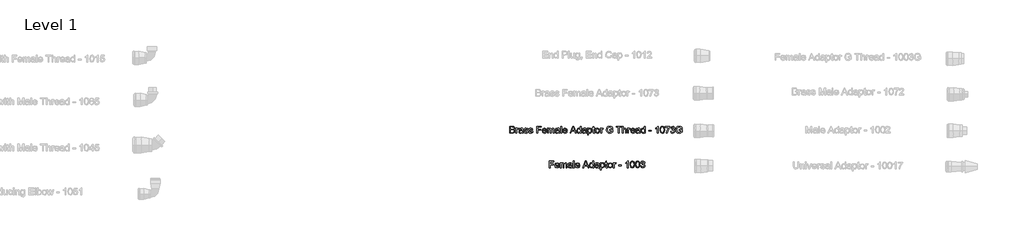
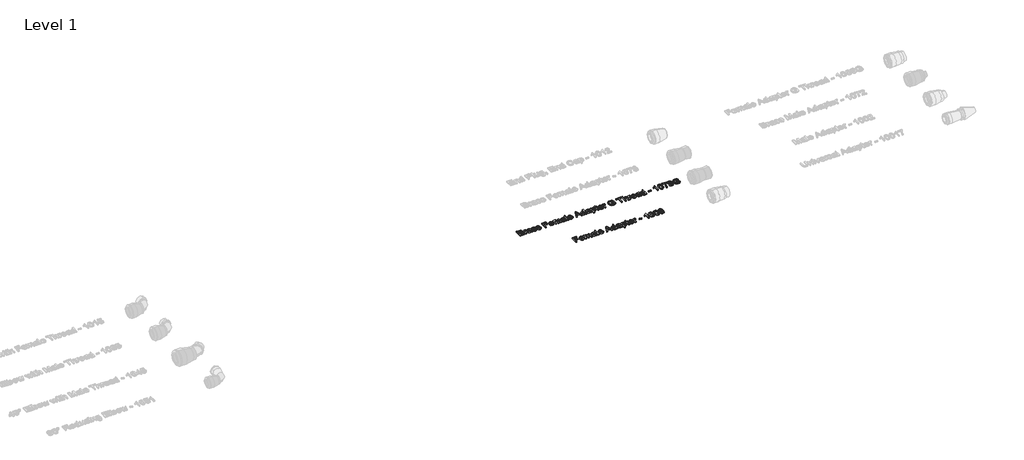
# One storey, part 9 of 13: 2 proxies.
"""IFC4 building model written with IfcOpenShell, lengths in millimetres."""

from ifc_helpers import new_model, si_unit, origin, origin_with_axes, place, context, project, spatial, polyline, outline, extrude, element, save

model = new_model("IFC4")

# Units and contexts
model_context = context("Model", 3, world=origin())
ifc_project = project(units=[si_unit("LENGTHUNIT", "METRE", prefix="MILLI")], contexts=[model_context])

# Site, building, storey
site = spatial("IfcSite", under=ifc_project)
building = spatial("IfcBuilding", under=site)
storey = spatial("IfcBuildingStorey", under=building, Name="Level 1", Elevation=0.0)

# Proxies
placement = place(None, origin())
element("IfcBuildingElementProxy", 1, Name="30 mm Arial", ObjectType="30 mm Arial", at=placement, inside=storey, context=model_context, shape_type="SweptSolid", body=[
    extrude(outline(polyline([(15493.2672516, 4599.8924653), (15493.2672516, 4629.4309268), (15504.5388863, 4629.4309268), (15510.059319, 4628.5619364), (15513.3189343, 4625.8900614), (15514.4980209, 4622.1112153), (15513.5064343, 4618.6604941), (15510.5100401, 4616.0463114), (15514.1482613, 4613.2915037), (15515.4210978, 4608.6977537), (15514.5521074, 4604.7278018), (15512.3994632, 4601.9008787), (15509.1867228, 4600.4008787), (15504.4523478, 4599.8924653), (15493.2672516, 4599.8924653)]), holes=[polyline([(15496.9595593, 4603.584773), (15504.5316747, 4603.584773), (15507.2720593, 4603.7290037), (15509.590569, 4604.5330903), (15511.1266266, 4606.1737153), (15511.7287901, 4608.661696), (15511.0220593, 4611.5318883), (15508.7323959, 4613.2446287), (15504.1710978, 4613.7386191), (15496.9595593, 4613.7386191), (15496.9595593, 4603.584773)]), polyline([(15496.9595593, 4617.4309268), (15503.7023478, 4617.4309268), (15507.6398478, 4617.7482345), (15510.0088382, 4619.114821), (15510.8057132, 4621.5198691), (15510.0629247, 4623.928523), (15507.9355209, 4625.3528018), (15503.1903286, 4625.7386191), (15496.9595593, 4625.7386191), (15496.9595593, 4617.4309268)])]), origin_with_axes(), (0.0, 0.0, 1.0), 5.0),
    extrude(outline(polyline([(15520.0364824, 4599.8924653), (15520.0364824, 4621.584773), (15523.2672516, 4621.584773), (15523.2672516, 4618.3756383), (15525.5605209, 4621.3323691), (15527.8682132, 4622.0463114), (15531.574944, 4620.9068883), (15530.3417709, 4617.5967922), (15527.745617, 4618.3540037), (15525.6578766, 4617.6256383), (15524.3273478, 4615.6064076), (15523.7287901, 4611.2939076), (15523.7287901, 4599.8924653), (15520.0364824, 4599.8924653)])), origin_with_axes(), (0.0, 0.0, 1.0), 5.0),
    extrude(outline(polyline([(15547.7287901, 4602.661696), (15544.1482613, 4600.1592922), (15540.1927324, 4599.4309268), (15534.8309536, 4601.1833306), (15532.9595593, 4605.661696), (15533.6662901, 4608.5823691), (15535.5232613, 4610.7025614), (15538.1085978, 4611.9140999), (15541.3033093, 4612.4693883), (15547.7071555, 4613.7386191), (15546.7119632, 4617.286696), (15542.6302324, 4618.3540037), (15538.8946555, 4617.6436672), (15537.1134055, 4615.1232345), (15533.4210978, 4615.584773), (15535.0184536, 4619.1905422), (15538.2347997, 4621.303523), (15543.106194, 4622.0463114), (15547.5809536, 4621.3900614), (15550.1085978, 4619.7422249), (15551.2408093, 4617.2362153), (15551.4210978, 4614.005446), (15551.4210978, 4609.411696), (15551.6085978, 4602.9970326), (15552.3441747, 4599.8924653), (15548.651867, 4599.8924653), (15547.7287901, 4602.661696)]), holes=[polyline([(15547.7179728, 4609.5234749), (15541.7720593, 4608.9140999), (15538.5953766, 4608.3155422), (15537.1566747, 4607.3419845), (15537.7516266, 4603.9237153), (15540.9787901, 4603.1232345), (15544.714367, 4604.006648), (15547.1230209, 4606.1448691), (15547.7179728, 4609.5234749)])]), origin_with_axes(), (0.0, 0.0, 1.0), 5.0),
    extrude(outline(polyline([(15555.1134055, 4606.3540037), (15558.8057132, 4606.8155422), (15560.5148478, 4604.0751576), (15564.4307132, 4603.1232345), (15568.1951363, 4603.9958306), (15569.4210978, 4606.0439076), (15568.1879247, 4607.7025614), (15564.387444, 4608.755446), (15558.8273478, 4610.5619364), (15556.4006651, 4612.6713114), (15555.574944, 4615.6496768), (15556.2384055, 4618.4008787), (15558.0485016, 4620.5030422), (15560.3958574, 4621.5955903), (15563.5725401, 4622.0463114), (15568.0653286, 4621.3215518), (15570.9210978, 4619.3600133), (15572.1903286, 4616.0463114), (15568.4980209, 4615.584773), (15567.1097997, 4617.6220326), (15563.8610016, 4618.3540037), (15560.3273478, 4617.6544845), (15559.2672516, 4616.0246768), (15561.0845593, 4614.1352537), (15564.2648478, 4613.349196), (15569.684319, 4611.6112153), (15572.2011459, 4609.6424653), (15573.1134055, 4606.4333306), (15572.042492, 4602.8996768), (15568.9523478, 4600.3359749), (15564.3802324, 4599.4309268), (15557.9403286, 4601.1761191), (15555.1134055, 4606.3540037)])), origin_with_axes(), (0.0, 0.0, 1.0), 5.0),
    extrude(outline(polyline([(15575.8826363, 4606.3540037), (15579.574944, 4606.8155422), (15581.2840786, 4604.0751576), (15585.199944, 4603.1232345), (15588.964367, 4603.9958306), (15590.1903286, 4606.0439076), (15588.9571555, 4607.7025614), (15585.1566747, 4608.755446), (15579.5965786, 4610.5619364), (15577.1698959, 4612.6713114), (15576.3441747, 4615.6496768), (15577.0076363, 4618.4008787), (15578.8177324, 4620.5030422), (15581.1650882, 4621.5955903), (15584.3417709, 4622.0463114), (15588.8345593, 4621.3215518), (15591.6903286, 4619.3600133), (15592.9595593, 4616.0463114), (15589.2672516, 4615.584773), (15587.8790305, 4617.6220326), (15584.6302324, 4618.3540037), (15581.0965786, 4617.6544845), (15580.0364824, 4616.0246768), (15581.8537901, 4614.1352537), (15585.0340786, 4613.349196), (15590.4535497, 4611.6112153), (15592.9703766, 4609.6424653), (15593.8826363, 4606.4333306), (15592.8117228, 4602.8996768), (15589.7215786, 4600.3359749), (15585.1494632, 4599.4309268), (15578.7095593, 4601.1761191), (15575.8826363, 4606.3540037)])), origin_with_axes(), (0.0, 0.0, 1.0), 5.0),
    extrude(outline(polyline([(15610.0364824, 4599.8924653), (15610.0364824, 4629.4309268), (15629.8826363, 4629.4309268), (15629.8826363, 4625.7386191), (15613.7287901, 4625.7386191), (15613.7287901, 4616.9693883), (15627.574944, 4616.9693883), (15627.574944, 4613.2770806), (15613.7287901, 4613.2770806), (15613.7287901, 4599.8924653), (15610.0364824, 4599.8924653)])), origin_with_axes(), (0.0, 0.0, 1.0), 5.0),
    extrude(outline(polyline([(15649.6855209, 4606.3540037), (15653.3057132, 4605.8924653), (15649.9198959, 4601.1256383), (15643.6134055, 4599.4309268), (15635.9475401, 4602.3552056), (15633.1134055, 4610.5583306), (15635.9763863, 4619.0318883), (15643.4042709, 4622.0463114), (15650.6194151, 4619.0390999), (15653.4210978, 4610.5799653), (15636.8057132, 4609.584773), (15638.9295113, 4604.7890999), (15643.6855209, 4603.1232345), (15647.3057132, 4603.8948691), (15649.6855209, 4606.3540037)]), holes=[polyline([(15636.8057132, 4613.2770806), (15649.7287901, 4613.2770806), (15648.2504247, 4616.6232345), (15643.3898478, 4618.3540037), (15638.8429728, 4616.9729941), (15636.8057132, 4613.2770806)])]), origin_with_axes(), (0.0, 0.0, 1.0), 5.0),
    extrude(outline(polyline([(15657.1134055, 4599.8924653), (15657.1134055, 4621.584773), (15660.8057132, 4621.584773), (15660.8057132, 4618.0150614), (15663.3441747, 4620.9393403), (15666.9571555, 4622.0463114), (15670.6566747, 4620.9177056), (15672.6903286, 4617.755446), (15679.2095593, 4622.0463114), (15684.0376843, 4620.2614556), (15685.7287901, 4614.7626576), (15685.7287901, 4599.8924653), (15682.0364824, 4599.8924653), (15682.0364824, 4613.1761191), (15681.6939343, 4616.2590518), (15680.4535497, 4617.7770806), (15678.3441747, 4618.3540037), (15674.7131651, 4616.8756383), (15673.2672516, 4612.1376576), (15673.2672516, 4599.8924653), (15669.574944, 4599.8924653), (15669.574944, 4613.5871768), (15668.7203766, 4617.1640999), (15665.918694, 4618.3540037), (15663.1855209, 4617.5607345), (15661.3682132, 4615.2386191), (15660.8057132, 4610.8323691), (15660.8057132, 4599.8924653), (15657.1134055, 4599.8924653)])), origin_with_axes(), (0.0, 0.0, 1.0), 5.0),
    extrude(outline(polyline([(15705.1134055, 4602.661696), (15701.5328766, 4600.1592922), (15697.5773478, 4599.4309268), (15692.215569, 4601.1833306), (15690.3441747, 4605.661696), (15691.0509055, 4608.5823691), (15692.9078766, 4610.7025614), (15695.4932132, 4611.9140999), (15698.6879247, 4612.4693883), (15705.0917709, 4613.7386191), (15704.0965786, 4617.286696), (15700.0148478, 4618.3540037), (15696.2792709, 4617.6436672), (15694.4980209, 4615.1232345), (15690.8057132, 4615.584773), (15692.403069, 4619.1905422), (15695.6194151, 4621.303523), (15700.4908093, 4622.0463114), (15704.965569, 4621.3900614), (15707.4932132, 4619.7422249), (15708.6254247, 4617.2362153), (15708.8057132, 4614.005446), (15708.8057132, 4609.411696), (15708.9932132, 4602.9970326), (15709.7287901, 4599.8924653), (15706.0364824, 4599.8924653), (15705.1134055, 4602.661696)]), holes=[polyline([(15705.1025882, 4609.5234749), (15699.1566747, 4608.9140999), (15695.979992, 4608.3155422), (15694.5412901, 4607.3419845), (15695.136242, 4603.9237153), (15698.3634055, 4603.1232345), (15702.0989824, 4604.006648), (15704.5076363, 4606.1448691), (15705.1025882, 4609.5234749)])]), origin_with_axes(), (0.0, 0.0, 1.0), 5.0),
    extrude(outline(polyline([(15713.8826363, 4599.8924653), (15713.8826363, 4629.4309268), (15717.574944, 4629.4309268), (15717.574944, 4599.8924653), (15713.8826363, 4599.8924653)])), origin_with_axes(), (0.0, 0.0, 1.0), 5.0),
    extrude(outline(polyline([(15738.3009055, 4606.3540037), (15741.9210978, 4605.8924653), (15738.5352805, 4601.1256383), (15732.2287901, 4599.4309268), (15724.5629247, 4602.3552056), (15721.7287901, 4610.5583306), (15724.5917709, 4619.0318883), (15732.0196555, 4622.0463114), (15739.2347997, 4619.0390999), (15742.0364824, 4610.5799653), (15725.4210978, 4609.584773), (15727.5448959, 4604.7890999), (15732.3009055, 4603.1232345), (15735.9210978, 4603.8948691), (15738.3009055, 4606.3540037)]), holes=[polyline([(15725.4210978, 4613.2770806), (15738.3441747, 4613.2770806), (15736.8658093, 4616.6232345), (15732.0052324, 4618.3540037), (15727.4583574, 4616.9729941), (15725.4210978, 4613.2770806)])]), origin_with_axes(), (0.0, 0.0, 1.0), 5.0),
    extrude(outline(polyline([(15754.2888863, 4599.8924653), (15766.0797516, 4629.4309268), (15769.2239824, 4629.4309268), (15781.0148478, 4599.8924653), (15777.1134055, 4599.8924653), (15773.731194, 4609.1232345), (15761.5653286, 4609.1232345), (15758.1903286, 4599.8924653), (15754.2888863, 4599.8924653)]), holes=[polyline([(15762.9210978, 4612.8155422), (15772.3826363, 4612.8155422), (15769.7215786, 4620.0775614), (15767.651867, 4625.7386191), (15765.8129247, 4620.7121768), (15762.9210978, 4612.8155422)])]), origin_with_axes(), (0.0, 0.0, 1.0), 5.0),
    extrude(outline(polyline([(15797.8826363, 4599.8924653), (15797.8826363, 4603.3756383), (15792.0629247, 4599.4309268), (15787.4908093, 4600.8588114), (15784.2600401, 4604.8431864), (15783.1134055, 4610.7169845), (15784.1698959, 4616.5943883), (15787.3357613, 4620.6400614), (15792.0485016, 4622.0463114), (15795.4523478, 4621.0403018), (15797.8826363, 4618.4261191), (15797.8826363, 4629.4309268), (15801.574944, 4629.4309268), (15801.574944, 4599.8924653), (15797.8826363, 4599.8924653)]), holes=[polyline([(15786.8057132, 4610.7314076), (15788.4715786, 4605.0162633), (15792.401867, 4603.1232345), (15796.2852805, 4604.9297249), (15797.8826363, 4610.4501576), (15796.2564343, 4616.442946), (15792.2504247, 4618.3540037), (15788.3634055, 4616.5186672), (15786.8057132, 4610.7314076)])]), origin_with_axes(), (0.0, 0.0, 1.0), 5.0),
    extrude(outline(polyline([(15820.9595593, 4602.661696), (15817.3790305, 4600.1592922), (15813.4235016, 4599.4309268), (15808.0617228, 4601.1833306), (15806.1903286, 4605.661696), (15806.8970593, 4608.5823691), (15808.7540305, 4610.7025614), (15811.339367, 4611.9140999), (15814.5340786, 4612.4693883), (15820.9379247, 4613.7386191), (15819.9427324, 4617.286696), (15815.8610016, 4618.3540037), (15812.1254247, 4617.6436672), (15810.3441747, 4615.1232345), (15806.651867, 4615.584773), (15808.2492228, 4619.1905422), (15811.465569, 4621.303523), (15816.3369632, 4622.0463114), (15820.8117228, 4621.3900614), (15823.339367, 4619.7422249), (15824.4715786, 4617.2362153), (15824.651867, 4614.005446), (15824.651867, 4609.411696), (15824.839367, 4602.9970326), (15825.574944, 4599.8924653), (15821.8826363, 4599.8924653), (15820.9595593, 4602.661696)]), holes=[polyline([(15820.948742, 4609.5234749), (15815.0028286, 4608.9140999), (15811.8261459, 4608.3155422), (15810.387444, 4607.3419845), (15810.9823959, 4603.9237153), (15814.2095593, 4603.1232345), (15817.9451363, 4604.006648), (15820.3537901, 4606.1448691), (15820.948742, 4609.5234749)])]), origin_with_axes(), (0.0, 0.0, 1.0), 5.0),
    extrude(outline(polyline([(15829.7287901, 4591.584773), (15829.7287901, 4621.584773), (15833.4210978, 4621.584773), (15833.4210978, 4617.9645806), (15835.9739824, 4621.0258787), (15839.4210978, 4622.0463114), (15844.1013863, 4620.6184268), (15847.1590786, 4616.5943883), (15848.1903286, 4610.9044845), (15847.0256651, 4604.9225133), (15843.6434536, 4600.8479941), (15838.9739824, 4599.4309268), (15835.761242, 4600.3792441), (15833.4210978, 4602.7770806), (15833.4210978, 4591.584773), (15829.7287901, 4591.584773)]), holes=[polyline([(15833.4210978, 4610.5655422), (15835.0184536, 4604.9405422), (15838.8946555, 4603.1232345), (15842.8501843, 4605.005446), (15844.4980209, 4610.8395806), (15842.8898478, 4616.4790037), (15839.0460978, 4618.3540037), (15835.1266266, 4616.3600133), (15833.4210978, 4610.5655422)])]), origin_with_axes(), (0.0, 0.0, 1.0), 5.0),
    extrude(outline(polyline([(15860.1903286, 4602.9717922), (15860.651867, 4599.7842922), (15857.8898478, 4599.4309268), (15854.7960978, 4600.0439076), (15853.2528286, 4601.6520806), (15852.8057132, 4605.8419845), (15852.8057132, 4617.8924653), (15850.0364824, 4617.8924653), (15850.0364824, 4621.584773), (15852.8057132, 4621.584773), (15852.8057132, 4626.8564076), (15856.4980209, 4629.0270806), (15856.4980209, 4621.584773), (15860.1903286, 4621.584773), (15860.1903286, 4617.8924653), (15856.4980209, 4617.8924653), (15856.4980209, 4605.9501576), (15856.6927324, 4604.0463114), (15860.1903286, 4602.9717922)])), origin_with_axes(), (0.0, 0.0, 1.0), 5.0),
    extrude(outline(polyline([(15862.9595593, 4610.7386191), (15866.1542709, 4619.6448691), (15872.6590786, 4622.0463114), (15879.636242, 4619.1220326), (15882.3441747, 4611.0415037), (15881.1470593, 4604.4717922), (15877.6602805, 4600.7542441), (15872.6590786, 4599.4309268), (15865.6386459, 4602.3443883), (15862.9595593, 4610.7386191)]), holes=[polyline([(15866.651867, 4610.7458306), (15868.3610016, 4605.0234749), (15872.6590786, 4603.1232345), (15876.9427324, 4605.0342922), (15878.651867, 4610.8612153), (15876.9319151, 4616.4537633), (15872.6590786, 4618.3540037), (15868.3610016, 4616.4609749), (15866.651867, 4610.7458306)])]), origin_with_axes(), (0.0, 0.0, 1.0), 5.0),
    extrude(outline(polyline([(15886.4980209, 4599.8924653), (15886.4980209, 4621.584773), (15889.7287901, 4621.584773), (15889.7287901, 4618.3756383), (15892.0220593, 4621.3323691), (15894.3297516, 4622.0463114), (15898.0364824, 4620.9068883), (15896.8033093, 4617.5967922), (15894.2071555, 4618.3540037), (15892.1194151, 4617.6256383), (15890.7888863, 4615.6064076), (15890.1903286, 4611.2939076), (15890.1903286, 4599.8924653), (15886.4980209, 4599.8924653)])), origin_with_axes(), (0.0, 0.0, 1.0), 5.0),
    extrude(outline(polyline([(15926.1903286, 4611.4309268), (15926.1903286, 4615.1232345), (15938.1903286, 4615.1232345), (15938.1903286, 4604.0823691), (15932.2660497, 4600.599196), (15926.0028286, 4599.4309268), (15918.1170113, 4601.287898), (15912.7660497, 4606.6640999), (15910.9595593, 4614.5174653), (15912.7588382, 4622.5475133), (15917.933117, 4628.0823691), (15925.7071555, 4629.8924653), (15931.4835978, 4628.8431864), (15935.5328766, 4625.9225133), (15937.7648478, 4621.036696), (15934.3610016, 4620.0775614), (15932.6771074, 4623.4922249), (15929.7997036, 4625.4609749), (15925.6494632, 4626.2001576), (15920.9222997, 4625.4032826), (15917.7059536, 4623.3119364), (15915.8057132, 4620.4669845), (15914.651867, 4614.6689076), (15916.0400882, 4608.2326095), (15920.0785497, 4604.381648), (15925.7071555, 4603.1232345), (15930.7588382, 4604.0715518), (15934.4980209, 4606.0943883), (15934.4980209, 4611.4309268), (15926.1903286, 4611.4309268)])), origin_with_axes(), (0.0, 0.0, 1.0), 5.0),
    extrude(outline(polyline([(15963.1134055, 4599.8924653), (15963.1134055, 4625.7386191), (15953.4210978, 4625.7386191), (15953.4210978, 4629.4309268), (15976.4980209, 4629.4309268), (15976.4980209, 4625.7386191), (15966.8057132, 4625.7386191), (15966.8057132, 4599.8924653), (15963.1134055, 4599.8924653)])), origin_with_axes(), (0.0, 0.0, 1.0), 5.0),
    extrude(outline(polyline([(15980.1903286, 4599.8924653), (15980.1903286, 4629.4309268), (15983.8826363, 4629.4309268), (15983.8826363, 4618.5703499), (15990.308117, 4622.0463114), (15994.4547516, 4621.0979941), (15996.9715786, 4618.4765999), (15997.7287901, 4613.6232345), (15997.7287901, 4599.8924653), (15994.0364824, 4599.8924653), (15994.0364824, 4613.241023), (15992.8610016, 4617.1352537), (15989.5292709, 4618.3540037), (15986.5040305, 4617.5318883), (15984.4847997, 4615.303523), (15983.8826363, 4611.4165037), (15983.8826363, 4599.8924653), (15980.1903286, 4599.8924653)])), origin_with_axes(), (0.0, 0.0, 1.0), 5.0),
    extrude(outline(polyline([(16002.8057132, 4599.8924653), (16002.8057132, 4621.584773), (16006.0364824, 4621.584773), (16006.0364824, 4618.3756383), (16008.3297516, 4621.3323691), (16010.637444, 4622.0463114), (16014.3441747, 4620.9068883), (16013.1110016, 4617.5967922), (16010.5148478, 4618.3540037), (16008.4271074, 4617.6256383), (16007.0965786, 4615.6064076), (16006.4980209, 4611.2939076), (16006.4980209, 4599.8924653), (16002.8057132, 4599.8924653)])), origin_with_axes(), (0.0, 0.0, 1.0), 5.0),
    extrude(outline(polyline([(16031.839367, 4606.3540037), (16035.4595593, 4605.8924653), (16032.073742, 4601.1256383), (16025.7672516, 4599.4309268), (16018.1013863, 4602.3552056), (16015.2672516, 4610.5583306), (16018.1302324, 4619.0318883), (16025.558117, 4622.0463114), (16032.7732613, 4619.0390999), (16035.574944, 4610.5799653), (16018.9595593, 4609.584773), (16021.0833574, 4604.7890999), (16025.839367, 4603.1232345), (16029.4595593, 4603.8948691), (16031.839367, 4606.3540037)]), holes=[polyline([(16018.9595593, 4613.2770806), (16031.8826363, 4613.2770806), (16030.4042709, 4616.6232345), (16025.543694, 4618.3540037), (16020.996819, 4616.9729941), (16018.9595593, 4613.2770806)])]), origin_with_axes(), (0.0, 0.0, 1.0), 5.0),
    extrude(outline(polyline([(16053.1134055, 4602.661696), (16049.5328766, 4600.1592922), (16045.5773478, 4599.4309268), (16040.215569, 4601.1833306), (16038.3441747, 4605.661696), (16039.0509055, 4608.5823691), (16040.9078766, 4610.7025614), (16043.4932132, 4611.9140999), (16046.6879247, 4612.4693883), (16053.0917709, 4613.7386191), (16052.0965786, 4617.286696), (16048.0148478, 4618.3540037), (16044.2792709, 4617.6436672), (16042.4980209, 4615.1232345), (16038.8057132, 4615.584773), (16040.403069, 4619.1905422), (16043.6194151, 4621.303523), (16048.4908093, 4622.0463114), (16052.965569, 4621.3900614), (16055.4932132, 4619.7422249), (16056.6254247, 4617.2362153), (16056.8057132, 4614.005446), (16056.8057132, 4609.411696), (16056.9932132, 4602.9970326), (16057.7287901, 4599.8924653), (16054.0364824, 4599.8924653), (16053.1134055, 4602.661696)]), holes=[polyline([(16053.1025882, 4609.5234749), (16047.1566747, 4608.9140999), (16043.979992, 4608.3155422), (16042.5412901, 4607.3419845), (16043.136242, 4603.9237153), (16046.3634055, 4603.1232345), (16050.0989824, 4604.006648), (16052.5076363, 4606.1448691), (16053.1025882, 4609.5234749)])]), origin_with_axes(), (0.0, 0.0, 1.0), 5.0),
    extrude(outline(polyline([(16075.2672516, 4599.8924653), (16075.2672516, 4603.3756383), (16069.4475401, 4599.4309268), (16064.8754247, 4600.8588114), (16061.6446555, 4604.8431864), (16060.4980209, 4610.7169845), (16061.5545113, 4616.5943883), (16064.7203766, 4620.6400614), (16069.433117, 4622.0463114), (16072.8369632, 4621.0403018), (16075.2672516, 4618.4261191), (16075.2672516, 4629.4309268), (16078.9595593, 4629.4309268), (16078.9595593, 4599.8924653), (16075.2672516, 4599.8924653)]), holes=[polyline([(16064.1903286, 4610.7314076), (16065.856194, 4605.0162633), (16069.7864824, 4603.1232345), (16073.6698959, 4604.9297249), (16075.2672516, 4610.4501576), (16073.6410497, 4616.442946), (16069.6350401, 4618.3540037), (16065.7480209, 4616.5186672), (16064.1903286, 4610.7314076)])]), origin_with_axes(), (0.0, 0.0, 1.0), 5.0),
    extrude(outline(polyline([(16094.1903286, 4608.661696), (16094.1903286, 4612.3540037), (16105.7287901, 4612.3540037), (16105.7287901, 4608.661696), (16094.1903286, 4608.661696)])), origin_with_axes(), (0.0, 0.0, 1.0), 5.0),
    extrude(outline(polyline([(16134.3441747, 4599.8924653), (16130.651867, 4599.8924653), (16130.651867, 4622.911696), (16127.1542709, 4620.4201095), (16123.2672516, 4618.5559268), (16123.2672516, 4622.0463114), (16128.6795113, 4625.5006383), (16131.964367, 4629.4309268), (16134.3441747, 4629.4309268), (16134.3441747, 4599.8924653)])), origin_with_axes(), (0.0, 0.0, 1.0), 5.0),
    extrude(outline(polyline([(16143.1134055, 4614.4237153), (16144.198742, 4622.9225133), (16147.4222997, 4627.8227537), (16152.8057132, 4629.4309268), (16157.1182132, 4628.4790037), (16160.0965786, 4625.7350133), (16161.8273478, 4621.364821), (16162.4980209, 4614.4237153), (16161.4235016, 4605.9609749), (16158.2107613, 4601.0499172), (16152.8057132, 4599.4309268), (16146.0557132, 4602.2434268), (16143.1134055, 4614.4237153)]), holes=[polyline([(16146.8057132, 4614.4309268), (16148.5364824, 4605.2614556), (16152.8057132, 4603.1232345), (16157.074944, 4605.2686672), (16158.8057132, 4614.4309268), (16157.1326363, 4623.4958306), (16152.762444, 4625.7386191), (16148.5941747, 4623.7626576), (16146.8057132, 4614.4309268)])]), origin_with_axes(), (0.0, 0.0, 1.0), 5.0),
    extrude(outline(polyline([(16165.7287901, 4625.2770806), (16165.7287901, 4628.9693883), (16185.1134055, 4628.9693883), (16185.1134055, 4625.9838114), (16179.6146074, 4618.0403018), (16175.4066747, 4607.9189076), (16174.0364824, 4599.8924653), (16170.3441747, 4599.8924653), (16171.8117228, 4608.2217922), (16175.839367, 4617.6364556), (16181.4210978, 4625.2770806), (16165.7287901, 4625.2770806)])), origin_with_axes(), (0.0, 0.0, 1.0), 5.0),
    extrude(outline(polyline([(16188.3441747, 4607.7386191), (16192.0364824, 4608.2001576), (16194.073742, 4604.3131383), (16197.8850401, 4603.1232345), (16202.370617, 4604.7602537), (16204.0364824, 4608.8131383), (16202.3850401, 4612.631648), (16198.1879247, 4614.1424653), (16195.5989824, 4613.7386191), (16196.0100401, 4617.4309268), (16200.7912901, 4618.4477537), (16202.651867, 4621.7073691), (16201.3033093, 4624.5955903), (16197.8273478, 4625.7386191), (16194.308117, 4624.584773), (16192.4980209, 4621.1232345), (16188.8057132, 4621.584773), (16191.8273478, 4627.3756383), (16197.6975401, 4629.4309268), (16202.1506651, 4628.4177056), (16205.2660497, 4625.6484749), (16206.3441747, 4621.9237153), (16205.3201363, 4618.5198691), (16202.2912901, 4616.0751576), (16206.3153286, 4613.5511191), (16207.7287901, 4608.7482345), (16204.901867, 4602.1424653), (16197.7552324, 4599.4309268), (16191.2792709, 4601.7458306), (16188.3441747, 4607.7386191)])), origin_with_axes(), (0.0, 0.0, 1.0), 5.0),
    extrude(outline(polyline([(16226.1903286, 4611.4309268), (16226.1903286, 4615.1232345), (16238.1903286, 4615.1232345), (16238.1903286, 4604.0823691), (16232.2660497, 4600.599196), (16226.0028286, 4599.4309268), (16218.1170113, 4601.287898), (16212.7660497, 4606.6640999), (16210.9595593, 4614.5174653), (16212.7588382, 4622.5475133), (16217.933117, 4628.0823691), (16225.7071555, 4629.8924653), (16231.4835978, 4628.8431864), (16235.5328766, 4625.9225133), (16237.7648478, 4621.036696), (16234.3610016, 4620.0775614), (16232.6771074, 4623.4922249), (16229.7997036, 4625.4609749), (16225.6494632, 4626.2001576), (16220.9222997, 4625.4032826), (16217.7059536, 4623.3119364), (16215.8057132, 4620.4669845), (16214.651867, 4614.6689076), (16216.0400882, 4608.2326095), (16220.0785497, 4604.381648), (16225.7071555, 4603.1232345), (16230.7588382, 4604.0715518), (16234.4980209, 4606.0943883), (16234.4980209, 4611.4309268), (16226.1903286, 4611.4309268)])), origin_with_axes(), (0.0, 0.0, 1.0), 5.0),
])
element("IfcBuildingElementProxy", 2, Name="30 mm Arial", ObjectType="30 mm Arial", at=placement, inside=storey, context=model_context, shape_type="SweptSolid", body=[
    extrude(outline(polyline([(15664.651867, 4449.8924653), (15664.651867, 4479.4309268), (15684.4980209, 4479.4309268), (15684.4980209, 4475.7386191), (15668.3441747, 4475.7386191), (15668.3441747, 4466.9693883), (15682.1903286, 4466.9693883), (15682.1903286, 4463.2770806), (15668.3441747, 4463.2770806), (15668.3441747, 4449.8924653), (15664.651867, 4449.8924653)])), origin_with_axes(), (0.0, 0.0, 1.0), 5.0),
    extrude(outline(polyline([(15704.3009055, 4456.3540037), (15707.9210978, 4455.8924653), (15704.5352805, 4451.1256383), (15698.2287901, 4449.4309268), (15690.5629247, 4452.3552056), (15687.7287901, 4460.5583306), (15690.5917709, 4469.0318883), (15698.0196555, 4472.0463114), (15705.2347997, 4469.0390999), (15708.0364824, 4460.5799653), (15691.4210978, 4459.584773), (15693.5448959, 4454.7890999), (15698.3009055, 4453.1232345), (15701.9210978, 4453.8948691), (15704.3009055, 4456.3540037)]), holes=[polyline([(15691.4210978, 4463.2770806), (15704.3441747, 4463.2770806), (15702.8658093, 4466.6232345), (15698.0052324, 4468.3540037), (15693.4583574, 4466.9729941), (15691.4210978, 4463.2770806)])]), origin_with_axes(), (0.0, 0.0, 1.0), 5.0),
    extrude(outline(polyline([(15711.7287901, 4449.8924653), (15711.7287901, 4471.584773), (15715.4210978, 4471.584773), (15715.4210978, 4468.0150614), (15717.9595593, 4470.9393403), (15721.5725401, 4472.0463114), (15725.2720593, 4470.9177056), (15727.3057132, 4467.755446), (15733.824944, 4472.0463114), (15738.653069, 4470.2614556), (15740.3441747, 4464.7626576), (15740.3441747, 4449.8924653), (15736.651867, 4449.8924653), (15736.651867, 4463.1761191), (15736.309319, 4466.2590518), (15735.0689343, 4467.7770806), (15732.9595593, 4468.3540037), (15729.3285497, 4466.8756383), (15727.8826363, 4462.1376576), (15727.8826363, 4449.8924653), (15724.1903286, 4449.8924653), (15724.1903286, 4463.5871768), (15723.3357613, 4467.1640999), (15720.5340786, 4468.3540037), (15717.8009055, 4467.5607345), (15715.9835978, 4465.2386191), (15715.4210978, 4460.8323691), (15715.4210978, 4449.8924653), (15711.7287901, 4449.8924653)])), origin_with_axes(), (0.0, 0.0, 1.0), 5.0),
    extrude(outline(polyline([(15759.7287901, 4452.661696), (15756.1482613, 4450.1592922), (15752.1927324, 4449.4309268), (15746.8309536, 4451.1833306), (15744.9595593, 4455.661696), (15745.6662901, 4458.5823691), (15747.5232613, 4460.7025614), (15750.1085978, 4461.9140999), (15753.3033093, 4462.4693883), (15759.7071555, 4463.7386191), (15758.7119632, 4467.286696), (15754.6302324, 4468.3540037), (15750.8946555, 4467.6436672), (15749.1134055, 4465.1232345), (15745.4210978, 4465.584773), (15747.0184536, 4469.1905422), (15750.2347997, 4471.303523), (15755.106194, 4472.0463114), (15759.5809536, 4471.3900614), (15762.1085978, 4469.7422249), (15763.2408093, 4467.2362153), (15763.4210978, 4464.005446), (15763.4210978, 4459.411696), (15763.6085978, 4452.9970326), (15764.3441747, 4449.8924653), (15760.651867, 4449.8924653), (15759.7287901, 4452.661696)]), holes=[polyline([(15759.7179728, 4459.5234749), (15753.7720593, 4458.9140999), (15750.5953766, 4458.3155422), (15749.1566747, 4457.3419845), (15749.7516266, 4453.9237153), (15752.9787901, 4453.1232345), (15756.714367, 4454.006648), (15759.1230209, 4456.1448691), (15759.7179728, 4459.5234749)])]), origin_with_axes(), (0.0, 0.0, 1.0), 5.0),
    extrude(outline(polyline([(15768.4980209, 4449.8924653), (15768.4980209, 4479.4309268), (15772.1903286, 4479.4309268), (15772.1903286, 4449.8924653), (15768.4980209, 4449.8924653)])), origin_with_axes(), (0.0, 0.0, 1.0), 5.0),
    extrude(outline(polyline([(15792.9162901, 4456.3540037), (15796.5364824, 4455.8924653), (15793.1506651, 4451.1256383), (15786.8441747, 4449.4309268), (15779.1783093, 4452.3552056), (15776.3441747, 4460.5583306), (15779.2071555, 4469.0318883), (15786.6350401, 4472.0463114), (15793.8501843, 4469.0390999), (15796.651867, 4460.5799653), (15780.0364824, 4459.584773), (15782.1602805, 4454.7890999), (15786.9162901, 4453.1232345), (15790.5364824, 4453.8948691), (15792.9162901, 4456.3540037)]), holes=[polyline([(15780.0364824, 4463.2770806), (15792.9595593, 4463.2770806), (15791.481194, 4466.6232345), (15786.620617, 4468.3540037), (15782.073742, 4466.9729941), (15780.0364824, 4463.2770806)])]), origin_with_axes(), (0.0, 0.0, 1.0), 5.0),
    extrude(outline(polyline([(15808.9042709, 4449.8924653), (15820.6951363, 4479.4309268), (15823.839367, 4479.4309268), (15835.6302324, 4449.8924653), (15831.7287901, 4449.8924653), (15828.3465786, 4459.1232345), (15816.1807132, 4459.1232345), (15812.8057132, 4449.8924653), (15808.9042709, 4449.8924653)]), holes=[polyline([(15817.5364824, 4462.8155422), (15826.9980209, 4462.8155422), (15824.3369632, 4470.0775614), (15822.2672516, 4475.7386191), (15820.4283093, 4470.7121768), (15817.5364824, 4462.8155422)])]), origin_with_axes(), (0.0, 0.0, 1.0), 5.0),
    extrude(outline(polyline([(15852.4980209, 4449.8924653), (15852.4980209, 4453.3756383), (15846.6783093, 4449.4309268), (15842.106194, 4450.8588114), (15838.8754247, 4454.8431864), (15837.7287901, 4460.7169845), (15838.7852805, 4466.5943883), (15841.9511459, 4470.6400614), (15846.6638863, 4472.0463114), (15850.0677324, 4471.0403018), (15852.4980209, 4468.4261191), (15852.4980209, 4479.4309268), (15856.1903286, 4479.4309268), (15856.1903286, 4449.8924653), (15852.4980209, 4449.8924653)]), holes=[polyline([(15841.4210978, 4460.7314076), (15843.0869632, 4455.0162633), (15847.0172516, 4453.1232345), (15850.9006651, 4454.9297249), (15852.4980209, 4460.4501576), (15850.871819, 4466.442946), (15846.8658093, 4468.3540037), (15842.9787901, 4466.5186672), (15841.4210978, 4460.7314076)])]), origin_with_axes(), (0.0, 0.0, 1.0), 5.0),
    extrude(outline(polyline([(15875.574944, 4452.661696), (15871.9944151, 4450.1592922), (15868.0388863, 4449.4309268), (15862.6771074, 4451.1833306), (15860.8057132, 4455.661696), (15861.512444, 4458.5823691), (15863.3694151, 4460.7025614), (15865.9547516, 4461.9140999), (15869.1494632, 4462.4693883), (15875.5533093, 4463.7386191), (15874.558117, 4467.286696), (15870.4763863, 4468.3540037), (15866.7408093, 4467.6436672), (15864.9595593, 4465.1232345), (15861.2672516, 4465.584773), (15862.8646074, 4469.1905422), (15866.0809536, 4471.303523), (15870.9523478, 4472.0463114), (15875.4271074, 4471.3900614), (15877.9547516, 4469.7422249), (15879.0869632, 4467.2362153), (15879.2672516, 4464.005446), (15879.2672516, 4459.411696), (15879.4547516, 4452.9970326), (15880.1903286, 4449.8924653), (15876.4980209, 4449.8924653), (15875.574944, 4452.661696)]), holes=[polyline([(15875.5641266, 4459.5234749), (15869.6182132, 4458.9140999), (15866.4415305, 4458.3155422), (15865.0028286, 4457.3419845), (15865.5977805, 4453.9237153), (15868.824944, 4453.1232345), (15872.5605209, 4454.006648), (15874.9691747, 4456.1448691), (15875.5641266, 4459.5234749)])]), origin_with_axes(), (0.0, 0.0, 1.0), 5.0),
    extrude(outline(polyline([(15884.3441747, 4441.584773), (15884.3441747, 4471.584773), (15888.0364824, 4471.584773), (15888.0364824, 4467.9645806), (15890.589367, 4471.0258787), (15894.0364824, 4472.0463114), (15898.7167709, 4470.6184268), (15901.7744632, 4466.5943883), (15902.8057132, 4460.9044845), (15901.6410497, 4454.9225133), (15898.2588382, 4450.8479941), (15893.589367, 4449.4309268), (15890.3766266, 4450.3792441), (15888.0364824, 4452.7770806), (15888.0364824, 4441.584773), (15884.3441747, 4441.584773)]), holes=[polyline([(15888.0364824, 4460.5655422), (15889.6338382, 4454.9405422), (15893.5100401, 4453.1232345), (15897.465569, 4455.005446), (15899.1134055, 4460.8395806), (15897.5052324, 4466.4790037), (15893.6614824, 4468.3540037), (15889.7420113, 4466.3600133), (15888.0364824, 4460.5655422)])]), origin_with_axes(), (0.0, 0.0, 1.0), 5.0),
    extrude(outline(polyline([(15914.8057132, 4452.9717922), (15915.2672516, 4449.7842922), (15912.5052324, 4449.4309268), (15909.4114824, 4450.0439076), (15907.8682132, 4451.6520806), (15907.4210978, 4455.8419845), (15907.4210978, 4467.8924653), (15904.651867, 4467.8924653), (15904.651867, 4471.584773), (15907.4210978, 4471.584773), (15907.4210978, 4476.8564076), (15911.1134055, 4479.0270806), (15911.1134055, 4471.584773), (15914.8057132, 4471.584773), (15914.8057132, 4467.8924653), (15911.1134055, 4467.8924653), (15911.1134055, 4455.9501576), (15911.308117, 4454.0463114), (15914.8057132, 4452.9717922)])), origin_with_axes(), (0.0, 0.0, 1.0), 5.0),
    extrude(outline(polyline([(15917.574944, 4460.7386191), (15920.7696555, 4469.6448691), (15927.2744632, 4472.0463114), (15934.2516266, 4469.1220326), (15936.9595593, 4461.0415037), (15935.762444, 4454.4717922), (15932.2756651, 4450.7542441), (15927.2744632, 4449.4309268), (15920.2540305, 4452.3443883), (15917.574944, 4460.7386191)]), holes=[polyline([(15921.2672516, 4460.7458306), (15922.9763863, 4455.0234749), (15927.2744632, 4453.1232345), (15931.558117, 4455.0342922), (15933.2672516, 4460.8612153), (15931.5472997, 4466.4537633), (15927.2744632, 4468.3540037), (15922.9763863, 4466.4609749), (15921.2672516, 4460.7458306)])]), origin_with_axes(), (0.0, 0.0, 1.0), 5.0),
    extrude(outline(polyline([(15941.1134055, 4449.8924653), (15941.1134055, 4471.584773), (15944.3441747, 4471.584773), (15944.3441747, 4468.3756383), (15946.637444, 4471.3323691), (15948.9451363, 4472.0463114), (15952.651867, 4470.9068883), (15951.418694, 4467.5967922), (15948.8225401, 4468.3540037), (15946.7347997, 4467.6256383), (15945.4042709, 4465.6064076), (15944.8057132, 4461.2939076), (15944.8057132, 4449.8924653), (15941.1134055, 4449.8924653)])), origin_with_axes(), (0.0, 0.0, 1.0), 5.0),
    extrude(outline(polyline([(15964.651867, 4458.661696), (15964.651867, 4462.3540037), (15976.1903286, 4462.3540037), (15976.1903286, 4458.661696), (15964.651867, 4458.661696)])), origin_with_axes(), (0.0, 0.0, 1.0), 5.0),
    extrude(outline(polyline([(16004.8057132, 4449.8924653), (16001.1134055, 4449.8924653), (16001.1134055, 4472.911696), (15997.6158093, 4470.4201095), (15993.7287901, 4468.5559268), (15993.7287901, 4472.0463114), (15999.1410497, 4475.5006383), (16002.4259055, 4479.4309268), (16004.8057132, 4479.4309268), (16004.8057132, 4449.8924653)])), origin_with_axes(), (0.0, 0.0, 1.0), 5.0),
    extrude(outline(polyline([(16013.574944, 4464.4237153), (16014.6602805, 4472.9225133), (16017.8838382, 4477.8227537), (16023.2672516, 4479.4309268), (16027.5797516, 4478.4790037), (16030.558117, 4475.7350133), (16032.2888863, 4471.364821), (16032.9595593, 4464.4237153), (16031.8850401, 4455.9609749), (16028.6722997, 4451.0499172), (16023.2672516, 4449.4309268), (16016.5172516, 4452.2434268), (16013.574944, 4464.4237153)]), holes=[polyline([(16017.2672516, 4464.4309268), (16018.9980209, 4455.2614556), (16023.2672516, 4453.1232345), (16027.5364824, 4455.2686672), (16029.2672516, 4464.4309268), (16027.5941747, 4473.4958306), (16023.2239824, 4475.7386191), (16019.0557132, 4473.7626576), (16017.2672516, 4464.4309268)])]), origin_with_axes(), (0.0, 0.0, 1.0), 5.0),
    extrude(outline(polyline([(16036.1903286, 4464.4237153), (16037.2756651, 4472.9225133), (16040.4992228, 4477.8227537), (16045.8826363, 4479.4309268), (16050.1951363, 4478.4790037), (16053.1735016, 4475.7350133), (16054.9042709, 4471.364821), (16055.574944, 4464.4237153), (16054.5004247, 4455.9609749), (16051.2876843, 4451.0499172), (16045.8826363, 4449.4309268), (16039.1326363, 4452.2434268), (16036.1903286, 4464.4237153)]), holes=[polyline([(16039.8826363, 4464.4309268), (16041.6134055, 4455.2614556), (16045.8826363, 4453.1232345), (16050.151867, 4455.2686672), (16051.8826363, 4464.4309268), (16050.2095593, 4473.4958306), (16045.839367, 4475.7386191), (16041.6710978, 4473.7626576), (16039.8826363, 4464.4309268)])]), origin_with_axes(), (0.0, 0.0, 1.0), 5.0),
    extrude(outline(polyline([(16058.8057132, 4457.7386191), (16062.4980209, 4458.2001576), (16064.5352805, 4454.3131383), (16068.3465786, 4453.1232345), (16072.8321555, 4454.7602537), (16074.4980209, 4458.8131383), (16072.8465786, 4462.631648), (16068.6494632, 4464.1424653), (16066.0605209, 4463.7386191), (16066.4715786, 4467.4309268), (16071.2528286, 4468.4477537), (16073.1134055, 4471.7073691), (16071.7648478, 4474.5955903), (16068.2888863, 4475.7386191), (16064.7696555, 4474.584773), (16062.9595593, 4471.1232345), (16059.2672516, 4471.584773), (16062.2888863, 4477.3756383), (16068.1590786, 4479.4309268), (16072.6122036, 4478.4177056), (16075.7275882, 4475.6484749), (16076.8057132, 4471.9237153), (16075.7816747, 4468.5198691), (16072.7528286, 4466.0751576), (16076.776867, 4463.5511191), (16078.1903286, 4458.7482345), (16075.3634055, 4452.1424653), (16068.2167709, 4449.4309268), (16061.7408093, 4451.7458306), (16058.8057132, 4457.7386191)])), origin_with_axes(), (0.0, 0.0, 1.0), 5.0),
])

save(model, "model.ifc")
